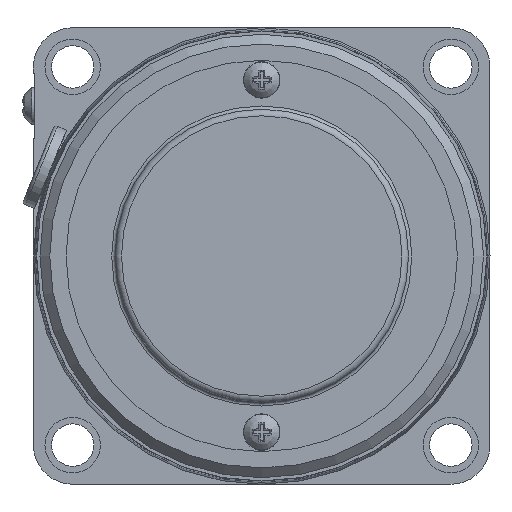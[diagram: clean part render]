
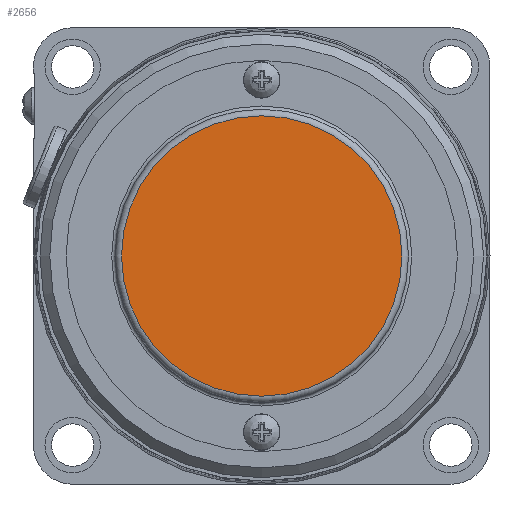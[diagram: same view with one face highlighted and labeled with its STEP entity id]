
A CAD part, left-side view. The second image highlights one B-rep face of the part: STEP entity #2656.
In plain terms, the highlighted planar face has unit normal (-1, 0, 0).
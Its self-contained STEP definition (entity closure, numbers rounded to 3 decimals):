
#198=CIRCLE('',#2835,21.5);
#332=FACE_OUTER_BOUND('',#501,.T.);
#501=EDGE_LOOP('',(#1796));
#1116=VERTEX_POINT('',#4043);
#1387=EDGE_CURVE('',#1116,#1116,#198,.T.);
#1796=ORIENTED_EDGE('',*,*,#1387,.F.);
#2400=PLANE('',#2834);
#2656=ADVANCED_FACE('',(#332),#2400,.T.);
#2834=AXIS2_PLACEMENT_3D('',#4042,#3181,#3182);
#2835=AXIS2_PLACEMENT_3D('',#4044,#3183,#3184);
#3181=DIRECTION('center_axis',(-1.,0.,0.));
#3182=DIRECTION('ref_axis',(0.,1.,0.));
#3183=DIRECTION('center_axis',(1.,0.,0.));
#3184=DIRECTION('ref_axis',(0.,0.,
-1.));
#4042=CARTESIAN_POINT('Origin',(-4.3,0.,
-10.75));
#4043=CARTESIAN_POINT('',(-4.3,0.,-21.5));
#4044=CARTESIAN_POINT('Origin',(-4.3,0.,
0.));
